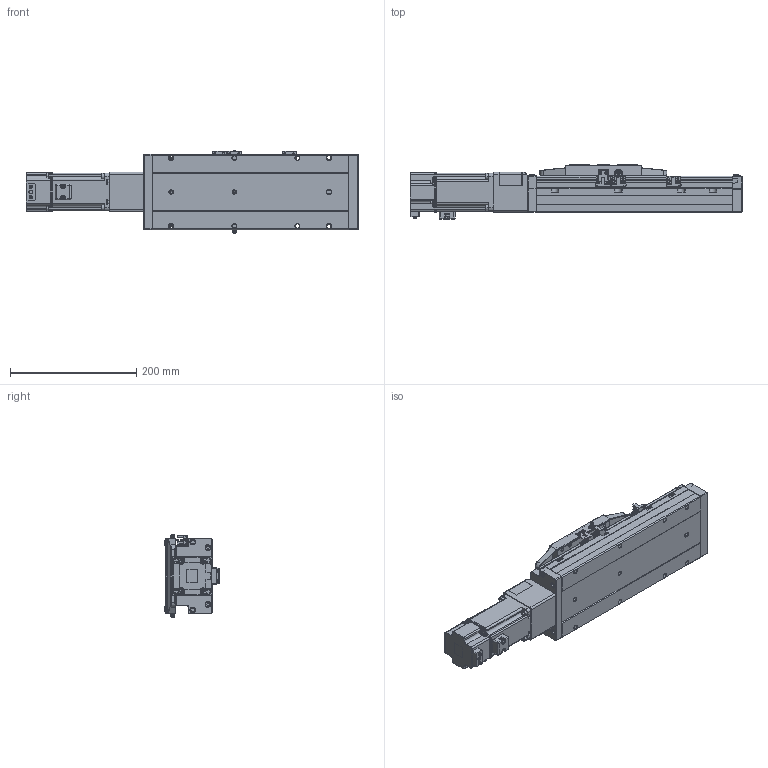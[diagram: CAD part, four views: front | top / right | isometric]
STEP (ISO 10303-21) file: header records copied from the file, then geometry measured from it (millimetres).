
FILE_DESCRIPTION (( 'STEP AP214' ), '1' );
FILE_NAME ('CTH12-L10-S100-BC-C40（简）.STEP', '2023-02-06T05:34:25', ( '' ), ( '' ), 'SwSTEP 2.0', 'SolidWorks 2018', '' );
FILE_SCHEMA (( 'AUTOMOTIVE_DESIGN' ));
Length unit declared in the file: millimetre
Products named in the file (23): CTH12萇儂釱; 蚐郲; 嫖萇羲壽郪磁2; 内六角圆柱头螺钉M3-1; CTH12_body_3; CTH12; CTH12賑怢郪磁; 内六角圆柱头螺钉M3-2; CTH12-BL_body_4; CTH嫖萇羲壽假蚾啣; 湮賑怢  裔赽-1(CTH12)賑怢; CTH12覜茼え; CTH12底座-L311简（100行程）; CTH12賑怢ㄗ潠ㄘ; CTH12-L10-S100-BC-C40（简）; PM-Y45; M5蹟隊; 400W萇儂; 嫖萇羲壽郪磁1333; 内六角圆柱头螺钉M3; CTH12-BC-06-T40（cth8-bc-06-t40-G）_1; CTH12-BC-03_1; hex nuts, style 1-grades ab gb_GB_FASTENER_NUT_SNAB1 M3-N
Assembly tree (43 placements, depth 4):
  CTH12-L10-S100-BC-C40（简）
    CTH12底座-L311简（100行程）
    蚐郲  x2
    CTH12-BL_body_4
    CTH12_body_3
    CTH12賑怢郪磁
      CTH12
        湮賑怢  裔赽-1(CTH12)賑怢
        CTH12賑怢ㄗ潠ㄘ
    CTH12覜茼え
    嫖萇羲壽郪磁2
      CTH嫖萇羲壽假蚾啣
      PM-Y45
      内六角圆柱头螺钉M3-1  x2
      内六角圆柱头螺钉M3-2  x2
      hex nuts, style 1-grades ab gb_GB_FASTENER_NUT_SNAB1 M3-N  x2
    CTH12萇儂釱
      CTH12-BC-03_1
      CTH12-BC-06-T40（cth8-bc-06-t40-G）_1
    嫖萇羲壽郪磁1333  x2
      CTH嫖萇羲壽假蚾啣
      PM-Y45
      内六角圆柱头螺钉M3-2
      内六角圆柱头螺钉M3-1
      hex nuts, style 1-grades ab gb_GB_FASTENER_NUT_SNAB1 M3-N
    内六角圆柱头螺钉M3  x6
    400W萇儂
    M5蹟隊  x4
Bounding box: 525.8 x 86.5 x 131.52 mm (x, y, z)
Volume: 2687588.8 mm3; surface area: 399581.9 mm2
Topology: 45 solids, 47 shells, 2720 faces, 6724 edges, 4229 vertices
Faces by surface type: plane 1360, cylinder 833, cone 275, bspline 124, torus 124, sphere 4
Entity records: 83344 total; most frequent: CARTESIAN_POINT 28622, ORIENTED_EDGE 10550, DIRECTION 10270, EDGE_CURVE 5275, AXIS2_PLACEMENT_3D 3597, VERTEX_POINT 3333, VECTOR 3076, LINE 3076
